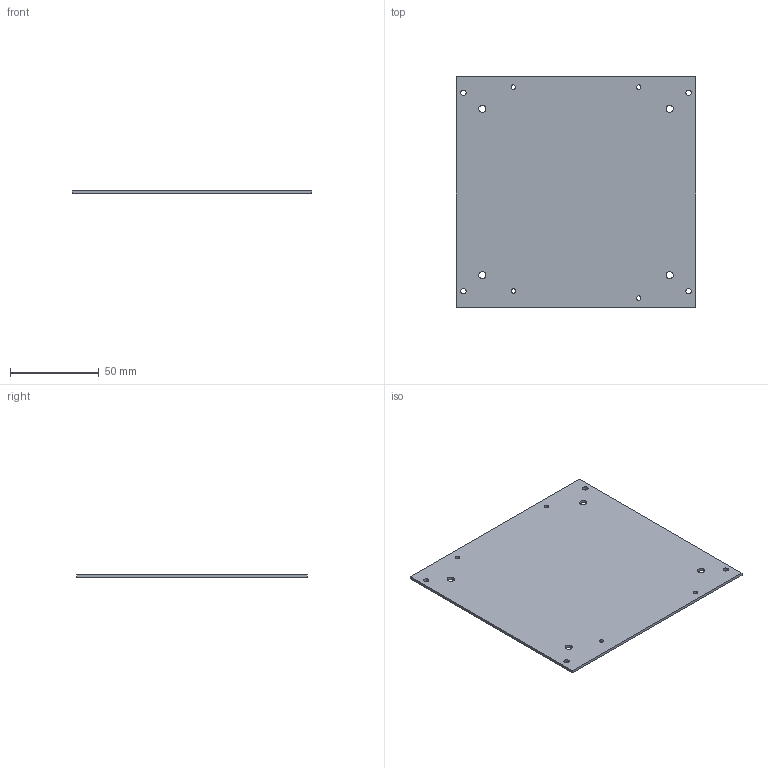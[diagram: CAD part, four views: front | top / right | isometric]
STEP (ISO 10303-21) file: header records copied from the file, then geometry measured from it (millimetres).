
FILE_DESCRIPTION (( 'STEP AP214' ), '1' );
FILE_NAME ('DKÔØ°å.STEP', '2023-02-09T03:31:47', ( '' ), ( '' ), 'SwSTEP 2.0', 'SolidWorks 2022', '' );
FILE_SCHEMA (( 'AUTOMOTIVE_DESIGN' ));
Length unit declared in the file: millimetre
Products named in the file (1): DK载板
Bounding box: 135 x 130 x 1.5 mm (x, y, z)
Volume: 26177.7 mm3; surface area: 35877.7 mm2
Topology: 1 solids, 1 shells, 30 faces, 84 edges, 56 vertices
Faces by surface type: cylinder 24, plane 6
Entity records: 1078 total; most frequent: DIRECTION 194, CARTESIAN_POINT 171, ORIENTED_EDGE 168, EDGE_CURVE 84, AXIS2_PLACEMENT_3D 79, VERTEX_POINT 56, EDGE_LOOP 54, CIRCLE 48
